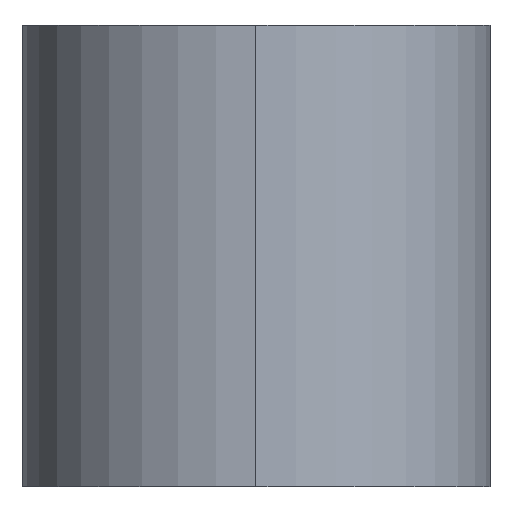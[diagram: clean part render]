
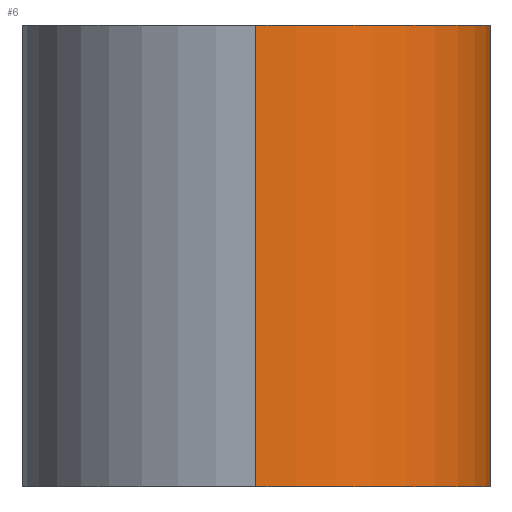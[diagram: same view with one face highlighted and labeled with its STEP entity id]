
A CAD part, left-side view. The second image highlights one B-rep face of the part: STEP entity #6.
In plain terms, the highlighted cylindrical face has radius 17.5 mm (diameter 35 mm), a partial arc.
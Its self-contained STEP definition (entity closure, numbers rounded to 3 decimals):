
#5 = EDGE_LOOP ( 'NONE', ( #110, #135, #73, #137 ) ) ;
#6 = ADVANCED_FACE ( 'NONE', ( #183 ), #181, .T. ) ;
#60 = EDGE_CURVE ( 'NONE', #62, #114, #369, .T. ) ;
#62 = VERTEX_POINT ( 'NONE', #364 ) ;
#63 = VERTEX_POINT ( 'NONE', #363 ) ;
#73 = ORIENTED_EDGE ( 'NONE', *, *, #88, .T. ) ;
#88 = EDGE_CURVE ( 'NONE', #98, #63, #449, .T. ) ;
#98 = VERTEX_POINT ( 'NONE', #268 ) ;
#110 = ORIENTED_EDGE ( 'NONE', *, *, #60, .F. ) ;
#114 = VERTEX_POINT ( 'NONE', #337 ) ;
#135 = ORIENTED_EDGE ( 'NONE', *, *, #161, .T. ) ;
#137 = ORIENTED_EDGE ( 'NONE', *, *, #160, .T. ) ;
#160 = EDGE_CURVE ( 'NONE', #63, #114, #505, .T. ) ;
#161 = EDGE_CURVE ( 'NONE', #62, #98, #501, .T. ) ;
#180 = CARTESIAN_POINT ( 'NONE',  ( 0., 0., 34.5 ) ) ;
#181 = CYLINDRICAL_SURFACE ( 'NONE', #205, 17.5 ) ;
#182 = DIRECTION ( 'NONE',  ( 0., 0., -1. ) ) ;
#183 = FACE_OUTER_BOUND ( 'NONE', #5, .T. ) ;
#204 = DIRECTION ( 'NONE',  ( -1., 0., 0. ) ) ;
#205 = AXIS2_PLACEMENT_3D ( 'NONE', #180, #182, #204 ) ;
#268 = CARTESIAN_POINT ( 'NONE',  ( -17.5, 0., 0. ) ) ;
#285 = DIRECTION ( 'NONE',  ( 1., 0., 0. ) ) ;
#337 = CARTESIAN_POINT ( 'NONE',  ( 16.36, -6.214, 34.5 ) ) ;
#363 = CARTESIAN_POINT ( 'NONE',  ( 16.36, -6.214, 0. ) ) ;
#364 = CARTESIAN_POINT ( 'NONE',  ( -17.5, 0., 34.5 ) ) ;
#365 = DIRECTION ( 'NONE',  ( 1., 0., 0. ) ) ;
#366 = DIRECTION ( 'NONE',  ( 0., 0., 1. ) ) ;
#367 = CARTESIAN_POINT ( 'NONE',  ( 0., 0., 34.5 ) ) ;
#368 = AXIS2_PLACEMENT_3D ( 'NONE', #367, #366, #365 ) ;
#369 = CIRCLE ( 'NONE', #368, 17.5 ) ;
#446 = DIRECTION ( 'NONE',  ( 0., 0., 1. ) ) ;
#447 = CARTESIAN_POINT ( 'NONE',  ( 0., 0., 0. ) ) ;
#448 = AXIS2_PLACEMENT_3D ( 'NONE', #447, #446, #285 ) ;
#449 = CIRCLE ( 'NONE', #448, 17.5 ) ;
#498 = DIRECTION ( 'NONE',  ( 0., 0., -1. ) ) ;
#499 = VECTOR ( 'NONE', #498, 1000. ) ;
#500 = CARTESIAN_POINT ( 'NONE',  ( -17.5, 0., 34.5 ) ) ;
#501 = LINE ( 'NONE', #500, #499 ) ;
#502 = DIRECTION ( 'NONE',  ( 0., 0., 1. ) ) ;
#503 = VECTOR ( 'NONE', #502, 1000. ) ;
#504 = CARTESIAN_POINT ( 'NONE',  ( 16.36, -6.214, 34.5 ) ) ;
#505 = LINE ( 'NONE', #504, #503 ) ;
